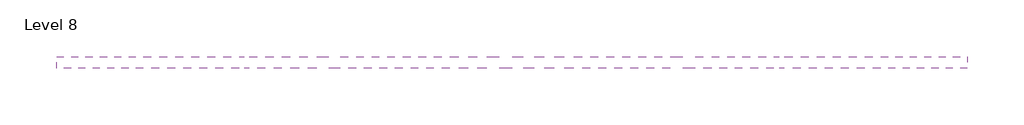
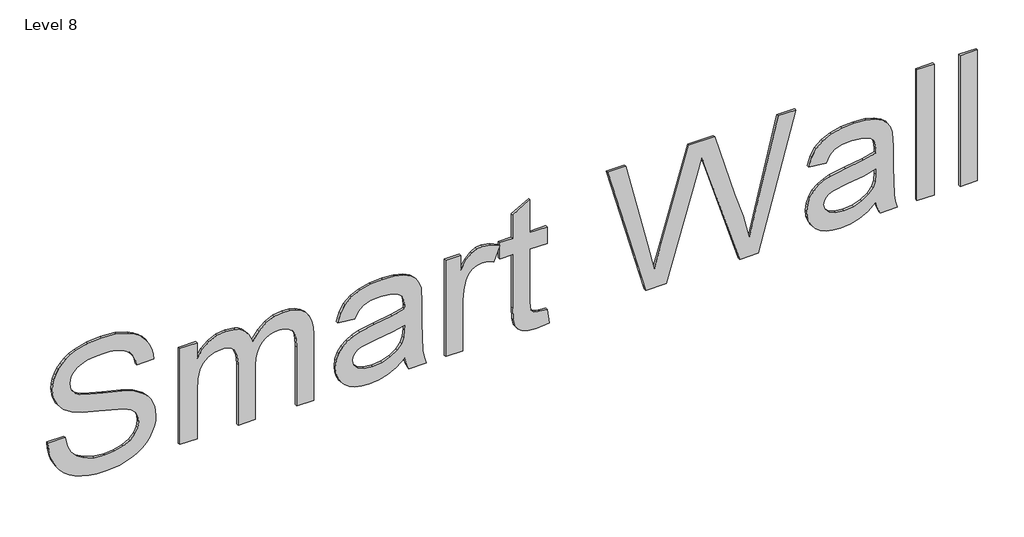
# One storey: 1 proxy.
"""IFC4 building model written with IfcOpenShell, lengths in millimetres."""

from ifc_helpers import new_model, si_unit, frame, origin, place, context, project, spatial, polyline, outline, extrude, element, save

model = new_model("IFC4")

# Units and contexts
model_context = context("Model", 3, world=origin())
ifc_project = project(units=[si_unit("LENGTHUNIT", "METRE", prefix="MILLI")], contexts=[model_context])

# Site, building, storey
site = spatial("IfcSite", under=ifc_project)
building = spatial("IfcBuilding", under=site)
storey = spatial("IfcBuildingStorey", under=building, Name="Level 8", Elevation=21000.0)

# Proxy
placement = place(None, origin())
element("IfcBuildingElementProxy", 1, Name="600mm Arial", ObjectType="600mm Arial", at=placement, inside=storey, context=model_context, shape_type="SweptSolid", body=[
    extrude(outline(polyline([(22825.3226826, -38015.450392), (22794.691673, -38012.8632526), (22765.6832595, -38006.6883728), (22738.2974422, -37996.9257526), (22712.534221, -37983.575392), (22689.1508076, -37967.0023752), (22668.9044133, -37947.5717862), (22651.7950383, -37925.2836252), (22637.8226826, -37900.137892), (22626.9693172, -37871.9633127), (22619.2169133, -37840.5886132), (22614.565471, -37806.0137935), (22613.0149903, -37768.2388536), (22618.7661922, -37709.3025555), (22625.9551946, -37682.146606), (22636.019798, -37656.5321228), (22648.676048, -37633.1396949), (22663.6399903, -37612.6499112), (22680.9116249, -37595.0627718), (22700.4909518, -37580.3782766), (22721.5621657, -37568.7992502), (22743.3094614, -37560.528517), (22765.7328388, -37555.5660771), (22788.832298, -37553.9119305), (22833.363548, -37559.6631324), (22853.5468412, -37566.8521348), (22872.3419133, -37576.9167382), (22889.6586201, -37590.0101877), (22905.4068172, -37606.2857286), (22932.1976826, -37648.3830843), (22949.4693172, -37697.637892), (22969.2649903, -37779.0561612), (22990.1063364, -37857.950392), (23000.3647499, -37883.4431805), (23010.5149903, -37899.6330843), (23033.3395095, -37917.2652959), (23061.7169133, -37923.1426997), (23079.0155912, -37921.0693824), (23094.9981633, -37914.8494305), (23109.6646297, -37904.4828439), (23123.0149903, -37889.9696228), (23134.1207595, -37870.9221468), (23142.0534518, -37846.9527959), (23146.8130672, -37818.0615699), (23148.3996057, -37784.2484689), (23146.7950383, -37751.4810411), (23141.9813364, -37722.9864497), (23133.9584999, -37698.7646949), (23122.7265287, -37678.8157766), (23108.3575383, -37662.8422189), (23090.9236441, -37650.5465459), (23070.424846, -37641.9287574), (23046.8611441, -37636.9888536), (23046.8611441, -37563.1426997), (23072.0023701, -37565.7298391), (23095.7914326, -37571.4720266), (23118.2283316, -37580.3692622), (23139.3130672, -37592.4215459), (23158.4867451, -37607.5116901), (23175.190471, -37625.5225074), (23189.4242451, -37646.4539978), (23201.1880672, -37670.3061612), (23216.9813364, -37724.825392), (23222.2457595, -37787.1330843), (23217.2157114, -37844.6451036), (23202.1255672, -37896.6042382), (23190.893596, -37919.7217262), (23177.3178749, -37939.8914978), (23161.3984037, -37957.1135531), (23143.1351826, -37971.387892), (23123.3350023, -37982.5883127), (23102.8046537, -37990.5886132), (23081.5441369, -37995.3887935), (23059.5534518, -37996.9888536), (23020.863548, -37991.8145747), (22986.1399903, -37976.2917382), (22956.0318172, -37950.2400555), (22931.1880672, -37913.4792382), (22913.4296537, -37868.3169786), (22894.769798, -37797.7340459), (22866.5726826, -37690.2100074), (22851.2661922, -37658.6955843), (22833.0390287, -37640.0176997), (22811.674846, -37630.8229882), (22786.957298, -37627.7580843), (22761.5907114, -37631.8506324), (22737.4140287, -37644.1282766), (22716.3563364, -37664.7713055), (22700.346721, -37693.9600074), (22690.2325383, -37729.981642), (22686.8611441, -37771.1234689), (22691.3142691, -37817.8542382), (22704.6736441, -37859.6811612), (22725.2625864, -37893.8999112), (22751.4044133, -37917.8061612), (22784.3431153, -37933.1306805), (22825.3226826, -37941.6042382), (22825.3226826, -38015.450392)])), frame((0.0, 24202.6264647, 0.0), z_axis=(0.0, 1.0, 0.0), x_axis=(0.0, 0.0, 1.0)), (0.0, 0.0, 1.0), 10.0),
    extrude(outline(polyline([(22622.2457595, -37452.3734689), (22622.2457595, -37378.5273151), (22841.0438364, -37378.5273151), (22891.8491249, -37375.7148151), (22929.1688364, -37367.2773151), (22956.0678749, -37352.5657766), (22975.6111441, -37330.9311612), (22987.5101826, -37304.7172189), (22991.4765287, -37276.2676997), (22989.9891489, -37258.162231), (22985.5270095, -37242.7881324), (22978.0901105, -37230.145404), (22967.6784518, -37220.2340459), (22937.894798, -37207.4155362), (22896.1399903, -37203.1426997), (22622.2457595, -37203.1426997), (22622.2457595, -37129.2965459), (22867.1496057, -37129.2965459), (22897.519197, -37127.489154), (22923.4356633, -37122.0669786), (22944.8990047, -37113.0300194), (22961.909221, -37100.3782766), (22974.8449182, -37084.9951637), (22984.0847018, -37067.7640939), (22989.628572, -37048.6850675), (22991.4765287, -37027.7580843), (22988.5919133, -37005.0958247), (22979.9380672, -36985.5705843), (22966.5786922, -36970.3902959), (22949.5774903, -36960.762892), (22924.7517691, -36955.6246709), (22887.9188364, -36953.9119305), (22622.2457595, -36953.9119305), (22622.2457595, -36880.0657766), (22919.6496057, -36880.0657766), (22954.3776706, -36882.1796588), (22984.2830191, -36888.5213055), (23009.3656513, -36899.0907165), (23029.6255672, -36913.887892), (23045.2430552, -36932.6063415), (23056.3984037, -36954.9395747), (23063.0916129, -36980.8875915), (23065.3226826, -37010.450392), (23059.9591008, -37048.7256324), (23043.8683557, -37083.2148151), (23017.050447, -37113.9179401), (22979.5053749, -37140.8350074), (23015.6532114, -37156.9167382), (23042.7505672, -37181.5080843), (23052.6258677, -37196.9497911), (23059.6796537, -37214.4287574), (23065.3226826, -37255.4984689), (23059.7878268, -37293.8277959), (23043.1832595, -37327.7580843), (23017.4921537, -37356.3157766), (22984.6976826, -37378.5273151), (23056.0919133, -37378.5273151), (23056.0919133, -37452.3734689), (22622.2457595, -37452.3734689)])), frame((0.0, 24202.6264647, 0.0), z_axis=(0.0, 1.0, 0.0), x_axis=(0.0, 0.0, 1.0)), (0.0, 0.0, 1.0), 10.0),
    extrude(outline(polyline([(22677.6303749, -36492.3734689), (22647.9188364, -36485.7388536), (22622.2457595, -36473.9119305), (22622.2457595, -36400.0657766), (22652.6243653, -36409.2244305), (22684.3371057, -36414.7773151), (22812.6303749, -36418.5273151), (22904.5053749, -36418.5273151), (22969.1207595, -36422.1330843), (22996.7950383, -36431.0393343), (23019.2409518, -36444.7773151), (23037.3959999, -36465.4924593), (23052.1976826, -36495.3301997), (23062.0414326, -36534.903517), (23065.3226826, -36584.825392), (23061.6087403, -36636.8746709), (23050.4669133, -36682.2532766), (23032.4741249, -36719.356642), (23008.207298, -36746.5801997), (22976.4765287, -36765.7088055), (22936.0919133, -36778.5273151), (22926.8611441, -36704.6811612), (22957.5642691, -36690.0056805), (22977.269798, -36669.0561612), (22987.924846, -36638.3350074), (22991.4765287, -36594.3446228), (22986.1399903, -36546.8205843), (22979.4693172, -36528.0886132), (22970.1303749, -36512.7100074), (22960.7734037, -36503.8127718), (22948.5678749, -36497.4576036), (22915.6111441, -36492.3734689), (22899.1688364, -36492.8061612), (22885.4669133, -36545.3782766), (22873.784221, -36620.8830843), (22862.6784518, -36684.7773151), (22852.5101826, -36712.0549593), (22838.4476826, -36736.4840459), (22819.8419133, -36757.2713055), (22796.0438364, -36773.6234689), (22768.2433557, -36784.2244305), (22737.6303749, -36787.7580843), (22711.5877066, -36785.4188415), (22687.9789326, -36778.4011132), (22666.8040528, -36766.7048992), (22648.0630672, -36750.3301997), (22632.7295335, -36729.5925194), (22621.7770095, -36704.8073632), (22615.2054951, -36675.974731), (22613.0149903, -36643.0946228), (22616.6568172, -36602.1871709), (22627.582298, -36563.9840459), (22647.377971, -36527.6559209), (22677.6303749, -36492.3734689)]), holes=[polyline([(22825.3226826, -36492.3734689), (22804.409221, -36492.8061612), (22771.2361441, -36495.7268343), (22747.2938364, -36504.4888536), (22724.0546537, -36524.2484689), (22704.5294133, -36552.6619305), (22691.2782114, -36587.7100074), (22686.8611441, -36627.3734689), (22690.863548, -36664.7833247), (22702.8707595, -36691.9167382), (22720.863548, -36708.4131324), (22742.8226826, -36713.9119305), (22757.7145095, -36711.387892), (22771.2361441, -36703.8157766), (22782.5222018, -36691.5741901), (22790.707298, -36675.0417382), (22802.6784518, -36611.5080843), (22813.0270095, -36541.9888536), (22825.3226826, -36492.3734689)])]), frame((0.0, 24202.6264647, 0.0), z_axis=(0.0, 1.0, 0.0), x_axis=(0.0, 0.0, 1.0)), (0.0, 0.0, 1.0), 10.0),
    extrude(outline(polyline([(22622.2457595, -36316.9888536), (22622.2457595, -36243.1426997), (22850.2746057, -36243.1426997), (22895.2746057, -36240.1499112), (22936.5246057, -36231.1715459), (22959.5294133, -36220.4804401), (22976.909221, -36204.5609689), (22987.8347018, -36184.8554401), (22991.4765287, -36162.8061612), (22987.690471, -36136.8446228), (22976.332298, -36110.8830843), (23042.534221, -36086.2196228), (23059.6255672, -36123.575392), (23065.3226826, -36160.3542382), (23061.752971, -36184.4407766), (23051.0438364, -36206.5080843), (23029.1207595, -36228.5032766), (22991.909221, -36252.3734689), (23056.0919133, -36252.3734689), (23056.0919133, -36316.9888536), (22622.2457595, -36316.9888536)])), frame((0.0, 24202.6264647, 0.0), z_axis=(0.0, 1.0, 0.0), x_axis=(0.0, 0.0, 1.0)), (0.0, 0.0, 1.0), 10.0),
    extrude(outline(polyline([(22683.832298, -35883.1426997), (22686.8611441, -35915.3061612), (22688.1051345, -35929.8193824), (22691.8371057, -35940.4744305), (22705.3226826, -35953.0946228), (22743.3996057, -35956.9888536), (22982.2457595, -35956.9888536), (22982.2457595, -35883.1426997), (23056.0919133, -35883.1426997), (23056.0919133, -35956.9888536), (23204.9380672, -35956.9888536), (23161.5246057, -36030.8350074), (23056.0919133, -36030.8350074), (23056.0919133, -36086.2196228), (22982.2457595, -36086.2196228), (22982.2457595, -36030.8350074), (22741.2361441, -36030.8350074), (22688.3395095, -36028.5994305), (22657.4380672, -36021.8926997), (22639.4452787, -36009.7051997), (22625.2746057, -35991.0273151), (22616.0798941, -35964.5970266), (22613.0149903, -35929.1523151), (22620.082298, -35873.9119305), (22683.832298, -35883.1426997)])), frame((0.0, 24202.6264647, 0.0), z_axis=(0.0, 1.0, 0.0), x_axis=(0.0, 0.0, 1.0)), (0.0, 0.0, 1.0), 10.0),
    extrude(outline(polyline([(22622.2457595, -35463.575392), (22622.2457595, -35374.4407766), (23065.034221, -35245.3542382), (23141.6207595, -35223.1426997), (23078.0149903, -35203.3830843), (22622.2457595, -35061.7484689), (22622.2457595, -34982.8542382), (23213.0149903, -34821.6042382), (23213.0149903, -34897.7580843), (22821.284221, -34992.0850074), (22704.8899903, -35020.0657766), (22813.3515287, -35046.9287574), (22921.5246057, -35083.3830843), (23213.0149903, -35168.4792382), (23213.0149903, -35278.2388536), (22810.8996057, -35395.3542382), (22704.8899903, -35426.2196228), (22824.7457595, -35455.0657766), (23213.0149903, -35548.5273151), (23213.0149903, -35624.6811612), (22622.2457595, -35463.575392)])), frame((0.0, 24202.6264647, 0.0), z_axis=(0.0, 1.0, 0.0), x_axis=(0.0, 0.0, 1.0)), (0.0, 0.0, 1.0), 10.0),
    extrude(outline(polyline([(22677.6303749, -34480.0657766), (22647.9188364, -34473.4311612), (22622.2457595, -34461.6042382), (22622.2457595, -34387.7580843), (22652.6243653, -34396.9167382), (22684.3371057, -34402.4696228), (22812.6303749, -34406.2196228), (22904.5053749, -34406.2196228), (22969.1207595, -34409.825392), (22996.7950383, -34418.731642), (23019.2409518, -34432.4696228), (23037.3959999, -34453.184767), (23052.1976826, -34483.0225074), (23062.0414326, -34522.5958247), (23065.3226826, -34572.5176997), (23061.6087403, -34624.5669786), (23050.4669133, -34669.9455843), (23032.4741249, -34707.0489497), (23008.207298, -34734.2725074), (22976.4765287, -34753.4011132), (22936.0919133, -34766.2196228), (22926.8611441, -34692.3734689), (22957.5642691, -34677.6979882), (22977.269798, -34656.7484689), (22987.924846, -34626.0273151), (22991.4765287, -34582.0369305), (22986.1399903, -34534.512892), (22979.4693172, -34515.7809209), (22970.1303749, -34500.4023151), (22960.7734037, -34491.5050795), (22948.5678749, -34485.1499112), (22915.6111441, -34480.0657766), (22899.1688364, -34480.4984689), (22885.4669133, -34533.0705843), (22873.784221, -34608.575392), (22862.6784518, -34672.4696228), (22852.5101826, -34699.747267), (22838.4476826, -34724.1763536), (22819.8419133, -34744.9636132), (22796.0438364, -34761.3157766), (22768.2433557, -34771.9167382), (22737.6303749, -34775.450392), (22711.5877066, -34773.1111492), (22687.9789326, -34766.0934209), (22666.8040528, -34754.3972069), (22648.0630672, -34738.0225074), (22632.7295335, -34717.2848271), (22621.7770095, -34692.4996709), (22615.2054951, -34663.6670387), (22613.0149903, -34630.7869305), (22616.6568172, -34589.8794786), (22627.582298, -34551.6763536), (22647.377971, -34515.3482286), (22677.6303749, -34480.0657766)]), holes=[polyline([(22825.3226826, -34480.0657766), (22804.409221, -34480.4984689), (22771.2361441, -34483.419142), (22747.2938364, -34492.1811612), (22724.0546537, -34511.9407766), (22704.5294133, -34540.3542382), (22691.2782114, -34575.4023151), (22686.8611441, -34615.0657766), (22690.863548, -34652.4756324), (22702.8707595, -34679.6090459), (22720.863548, -34696.1054401), (22742.8226826, -34701.6042382), (22757.7145095, -34699.0801997), (22771.2361441, -34691.5080843), (22782.5222018, -34679.2664978), (22790.707298, -34662.7340459), (22802.6784518, -34599.200392), (22813.0270095, -34529.6811612), (22825.3226826, -34480.0657766)])]), frame((0.0, 24202.6264647, 0.0), z_axis=(0.0, 1.0, 0.0), x_axis=(0.0, 0.0, 1.0)), (0.0, 0.0, 1.0), 10.0),
    extrude(outline(polyline([(-34230.8350074, 24202.6264647), (-34304.6811612, 24202.6264647), (-34304.6811612, 24212.6264647), (-34230.8350074, 24212.6264647), (-34230.8350074, 24202.6264647)])), frame((0.0, 0.0, 22622.2457595), z_axis=(0.0, 0.0, 1.0), x_axis=(1.0, 0.0, 0.0)), (0.0, 0.0, 1.0), 590.7692308),
    extrude(outline(polyline([(-34046.2196228, 24202.6264647), (-34120.0657766, 24202.6264647), (-34120.0657766, 24212.6264647), (-34046.2196228, 24212.6264647), (-34046.2196228, 24202.6264647)])), frame((0.0, 0.0, 22622.2457595), z_axis=(0.0, 0.0, 1.0), x_axis=(1.0, 0.0, 0.0)), (0.0, 0.0, 1.0), 590.7692308),
])

save(model, "model.ifc")
